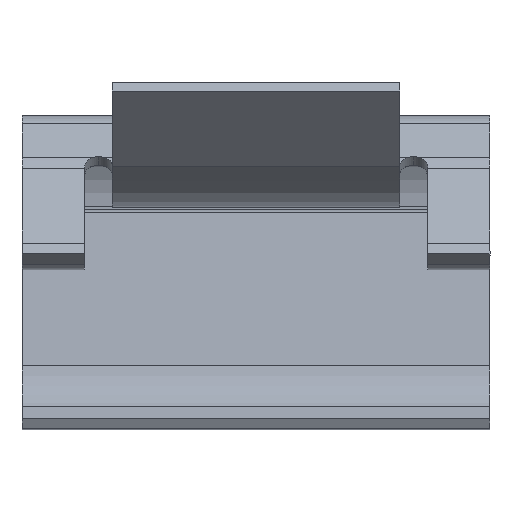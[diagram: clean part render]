
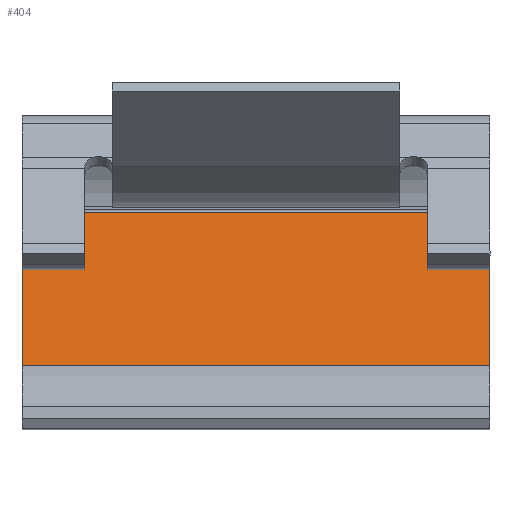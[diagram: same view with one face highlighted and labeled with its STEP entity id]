
A CAD part, top view. The second image highlights one B-rep face of the part: STEP entity #404.
In plain terms, the highlighted planar face has unit normal (0, 0.174, 0.985).
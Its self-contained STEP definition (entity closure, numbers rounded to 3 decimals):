
#9 = EDGE_CURVE ( 'NONE', #909, #162, #562, .T. ) ;
#34 = VERTEX_POINT ( 'NONE', #662 ) ;
#162 = VERTEX_POINT ( 'NONE', #1463 ) ;
#164 = ORIENTED_EDGE ( 'NONE', *, *, #180, .T. ) ;
#180 = EDGE_CURVE ( 'NONE', #2174, #34, #1561, .T. ) ;
#210 = ORIENTED_EDGE ( 'NONE', *, *, #474, .T. ) ;
#253 = ORIENTED_EDGE ( 'NONE', *, *, #9, .T. ) ;
#301 = ORIENTED_EDGE ( 'NONE', *, *, #475, .F. ) ;
#369 = EDGE_LOOP ( 'NONE', ( #301, #253, #210, #164 ) ) ;
#404 = ADVANCED_FACE ( 'NONE', ( #1430 ), #1431, .F. ) ;
#474 = EDGE_CURVE ( 'NONE', #162, #2174, #1698, .T. ) ;
#475 = EDGE_CURVE ( 'NONE', #909, #34, #1702, .T. ) ;
#562 = LINE ( 'NONE', #563, #564 ) ;
#563 = CARTESIAN_POINT ( 'NONE',  ( 0., -3.044, -2.5 ) ) ;
#564 = VECTOR ( 'NONE', #565, 1000. ) ;
#565 = DIRECTION ( 'NONE',  ( 0., -0.985, 0.174 ) ) ;
#662 = CARTESIAN_POINT ( 'NONE',  ( 15., -3.087, -2.492 ) ) ;
#849 = CARTESIAN_POINT ( 'NONE',  ( 0., -3.087, -2.492 ) ) ;
#909 = VERTEX_POINT ( 'NONE', #849 ) ;
#1430 = FACE_OUTER_BOUND ( 'NONE', #369, .T. ) ;
#1431 = PLANE ( 'NONE',  #1432 ) ;
#1432 = AXIS2_PLACEMENT_3D ( 'NONE', #1433, #1434, #1435 ) ;
#1433 = CARTESIAN_POINT ( 'NONE',  ( 15., -3.044, -2.5 ) ) ;
#1434 = DIRECTION ( 'NONE',  ( 0., -0.174, -0.985 ) ) ;
#1435 = DIRECTION ( 'NONE',  ( 0., 0.985, -0.174 ) ) ;
#1463 = CARTESIAN_POINT ( 'NONE',  ( 0., -8.007, -1.625 ) ) ;
#1561 = LINE ( 'NONE', #1562, #1563 ) ;
#1562 = CARTESIAN_POINT ( 'NONE',  ( 15., -3.044, -2.5 ) ) ;
#1563 = VECTOR ( 'NONE', #1564, 1000. ) ;
#1564 = DIRECTION ( 'NONE',  ( 0., 0.985, -0.174 ) ) ;
#1698 = LINE ( 'NONE', #1699, #1700 ) ;
#1699 = CARTESIAN_POINT ( 'NONE',  ( 15., -8.007, -1.625 ) ) ;
#1700 = VECTOR ( 'NONE', #1701, 1000. ) ;
#1701 = DIRECTION ( 'NONE',  ( 1., 0., 0. ) ) ;
#1702 = LINE ( 'NONE', #1703, #1704 ) ;
#1703 = CARTESIAN_POINT ( 'NONE',  ( 0., -3.087, -2.492 ) ) ;
#1704 = VECTOR ( 'NONE', #1705, 1000. ) ;
#1705 = DIRECTION ( 'NONE',  ( 1., 0., 0. ) ) ;
#1924 = CARTESIAN_POINT ( 'NONE',  ( 15., -8.007, -1.625 ) ) ;
#2174 = VERTEX_POINT ( 'NONE', #1924 ) ;
